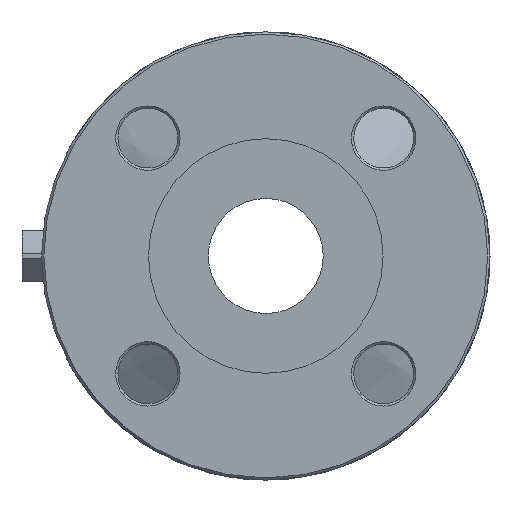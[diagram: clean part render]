
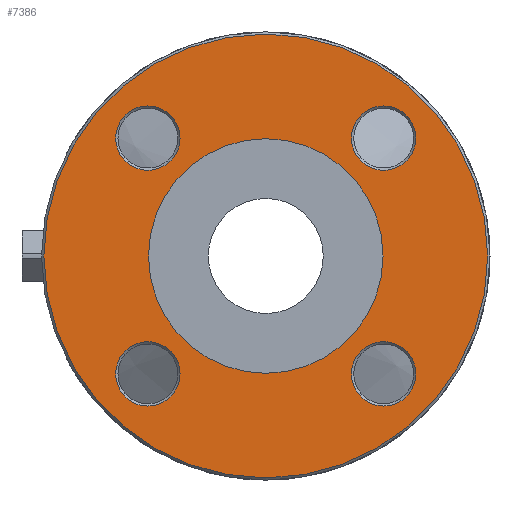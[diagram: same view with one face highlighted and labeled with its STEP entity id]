
A CAD part, left-side view. The second image highlights one B-rep face of the part: STEP entity #7386.
In plain terms, the highlighted planar face has unit normal (-1, 0, 0).
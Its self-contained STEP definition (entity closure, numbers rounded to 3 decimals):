
#7311=CARTESIAN_POINT('',(-109.0,-65.265,-51.265));
#7312=VERTEX_POINT('',#7311);
#7313=CARTESIAN_POINT('',(-109.0,-51.265,-51.265));
#7314=DIRECTION('',(-1.0,0.0,0.0));
#7315=DIRECTION('',(0.0,1.0,0.0));
#7316=AXIS2_PLACEMENT_3D('',#7313,#7314,#7315);
#7317=CIRCLE('',#7316,14.);
#7318=EDGE_CURVE('',#7312,#7312,#7317,.T.);
#7323=CARTESIAN_POINT('',(-109.0,-73.75,0.0));
#7324=DIRECTION('',(-1.0,0.0,0.0));
#7325=DIRECTION('',(0.0,0.0,1.0));
#7326=AXIS2_PLACEMENT_3D('',#7323,#7324,#7325);
#7327=PLANE('',#7326);
#7328=CARTESIAN_POINT('',(-109.0,-96.5,0.0));
#7329=VERTEX_POINT('',#7328);
#7330=CARTESIAN_POINT('',(-109.0,0.0,0.0));
#7331=DIRECTION('',(1.0,0.0,0.0));
#7332=DIRECTION('',(0.0,-1.0,0.0));
#7333=AXIS2_PLACEMENT_3D('',#7330,#7331,#7332);
#7334=CIRCLE('',#7333,96.5);
#7335=EDGE_CURVE('',#7329,#7329,#7334,.T.);
#7336=ORIENTED_EDGE('',*,*,#7335,.F.);
#7337=EDGE_LOOP('',(#7336));
#7338=FACE_OUTER_BOUND('',#7337,.T.);
#7339=CARTESIAN_POINT('',(-109.0,-51.265,65.265));
#7340=VERTEX_POINT('',#7339);
#7341=CARTESIAN_POINT('',(-109.0,-51.265,51.265));
#7342=DIRECTION('',(-1.0,0.0,0.0));
#7343=DIRECTION('',(0.0,0.0,-1.0));
#7344=AXIS2_PLACEMENT_3D('',#7341,#7342,#7343);
#7345=CIRCLE('',#7344,14.);
#7346=EDGE_CURVE('',#7340,#7340,#7345,.T.);
#7347=ORIENTED_EDGE('',*,*,#7346,.F.);
#7348=EDGE_LOOP('',(#7347));
#7349=FACE_BOUND('',#7348,.T.);
#7350=CARTESIAN_POINT('',(-109.0,51.265,-65.265));
#7351=VERTEX_POINT('',#7350);
#7352=CARTESIAN_POINT('',(-109.0,51.265,-51.265));
#7353=DIRECTION('',(-1.0,0.0,0.0));
#7354=DIRECTION('',(0.0,0.0,1.0));
#7355=AXIS2_PLACEMENT_3D('',#7352,#7353,#7354);
#7356=CIRCLE('',#7355,14.);
#7357=EDGE_CURVE('',#7351,#7351,#7356,.T.);
#7358=ORIENTED_EDGE('',*,*,#7357,.F.);
#7359=EDGE_LOOP('',(#7358));
#7360=FACE_BOUND('',#7359,.T.);
#7361=CARTESIAN_POINT('',(-109.0,-51.,0.0));
#7362=VERTEX_POINT('',#7361);
#7363=CARTESIAN_POINT('',(-109.0,0.0,0.0));
#7364=DIRECTION('',(1.0,0.0,0.0));
#7365=DIRECTION('',(0.0,-1.0,0.0));
#7366=AXIS2_PLACEMENT_3D('',#7363,#7364,#7365);
#7367=CIRCLE('',#7366,51.);
#7368=EDGE_CURVE('',#7362,#7362,#7367,.T.);
#7369=ORIENTED_EDGE('',*,*,#7368,.T.);
#7370=EDGE_LOOP('',(#7369));
#7371=FACE_BOUND('',#7370,.T.);
#7372=CARTESIAN_POINT('',(-109.0,65.265,51.265));
#7373=VERTEX_POINT('',#7372);
#7374=CARTESIAN_POINT('',(-109.0,51.265,51.265));
#7375=DIRECTION('',(-1.0,0.0,0.0));
#7376=DIRECTION('',(0.0,-1.0,0.0));
#7377=AXIS2_PLACEMENT_3D('',#7374,#7375,#7376);
#7378=CIRCLE('',#7377,14.);
#7379=EDGE_CURVE('',#7373,#7373,#7378,.T.);
#7380=ORIENTED_EDGE('',*,*,#7379,.F.);
#7381=EDGE_LOOP('',(#7380));
#7382=FACE_BOUND('',#7381,.T.);
#7383=ORIENTED_EDGE('',*,*,#7318,.F.);
#7384=EDGE_LOOP('',(#7383));
#7385=FACE_BOUND('',#7384,.T.);
#7386=ADVANCED_FACE('',(#7338,#7349,#7360,#7371,#7382,#7385),#7327,.T.);
